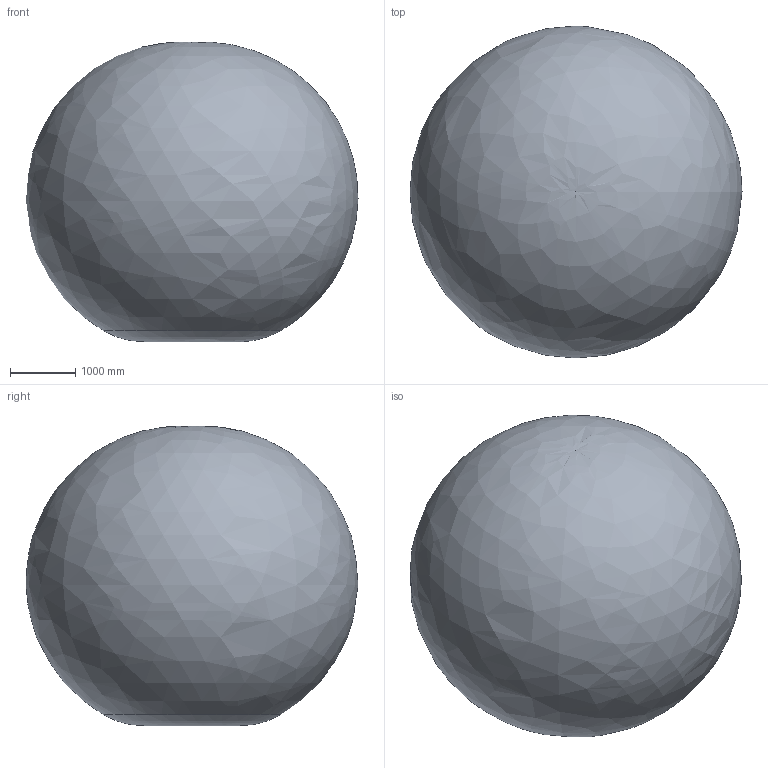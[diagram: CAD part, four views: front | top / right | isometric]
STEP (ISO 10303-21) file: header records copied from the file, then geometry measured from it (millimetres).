
FILE_DESCRIPTION(/* description */ (''),/* implementation_level */ '2;1');
FILE_NAME(/* name */ 'E:\组装完成的图纸\IRB 4600\IRB 4600-40-2.55\IRB 4600-40-2.55(带工作域).stp',/* time_stamp */ '2023-11-03T22:00:19+08:00',/* author */ ('Administrator'),/* organization */ (''),/* preprocessor_version */ 'ST-DEVELOPER v16.5',/* originating_system */ 'Autodesk Inventor 2017',/* authorisation */ '');
FILE_SCHEMA (('AUTOMOTIVE_DESIGN { 1 0 10303 214 3 1 1 }'));
Products named in the file (12): 部件4; IRB4600_40kg-255_BASE_CAD_rev04; IRB4600_40kg-255_CABLES_LINK1_rev03; IRB4600_40kg-255_CABLES_LINK2_rev03; IRB4600_40kg-255_CABLES_LINK3_rev03; IRB4600_40kg-255_LINK1_CAD_rev04; IRB4600_40kg-255_LINK2_CAD_rev04; IRB4600_40kg-255_LINK3_CAD_rev04; IRB4600_40kg-255_LINK4_CAD_rev04; IRB4600_40kg-255_LINK5_CAD_rev04; IRB4600_40kg-255_LINK6_CAD_rev04; IRB4600_40kg-255_WORKING-SPACE_rev00
Assembly tree (11 placements, depth 2):
  部件4
    IRB4600_40kg-255_BASE_CAD_rev04
    IRB4600_40kg-255_CABLES_LINK1_rev03
    IRB4600_40kg-255_CABLES_LINK2_rev03
    IRB4600_40kg-255_CABLES_LINK3_rev03
    IRB4600_40kg-255_LINK1_CAD_rev04
    IRB4600_40kg-255_LINK2_CAD_rev04
    IRB4600_40kg-255_LINK3_CAD_rev04
    IRB4600_40kg-255_LINK4_CAD_rev04
    IRB4600_40kg-255_LINK5_CAD_rev04
    IRB4600_40kg-255_LINK6_CAD_rev04
    IRB4600_40kg-255_WORKING-SPACE_rev00
Bounding box: 5078.88 x 5078.16 x 4583.23 mm (x, y, z)
Volume: 64408712658.4 mm3; surface area: 89585834.1 mm2
Topology: 11 solids, 14 shells, 4035 faces, 10279 edges, 6574 vertices
Faces by surface type: plane 1812, cylinder 839, bspline 808, cone 454, torus 96, sphere 26
Full cylindrical faces by diameter (mm): 5 x2, 5.263 x1, 5.5 x2, 6 x12, 6.8 x18, 6.9 x4, 6.959 x1, 7 x3, 7.1 x5, 7.5 x16, 8 x2, 8.3 x2, 8.5 x12, 9.5 x1, 10 x1, 10.2 x1, 10.22 x12, 10.5 x2, 10.6 x1, 11 x3, 11.9 x4, 12 x47, 13 x4, 13.3 x21, 15.551 x1, 15.665 x5, 16 x1, 16.27 x16, 16.3 x30, 17 x2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
Entity records: 193396 total; most frequent: CARTESIAN_POINT 102291, ORIENTED_EDGE 19260, DIRECTION 17594, EDGE_CURVE 9630, AXIS2_PLACEMENT_3D 6883, VERTEX_POINT 6442, EDGE_LOOP 4974, FACE_OUTER_BOUND 4035
